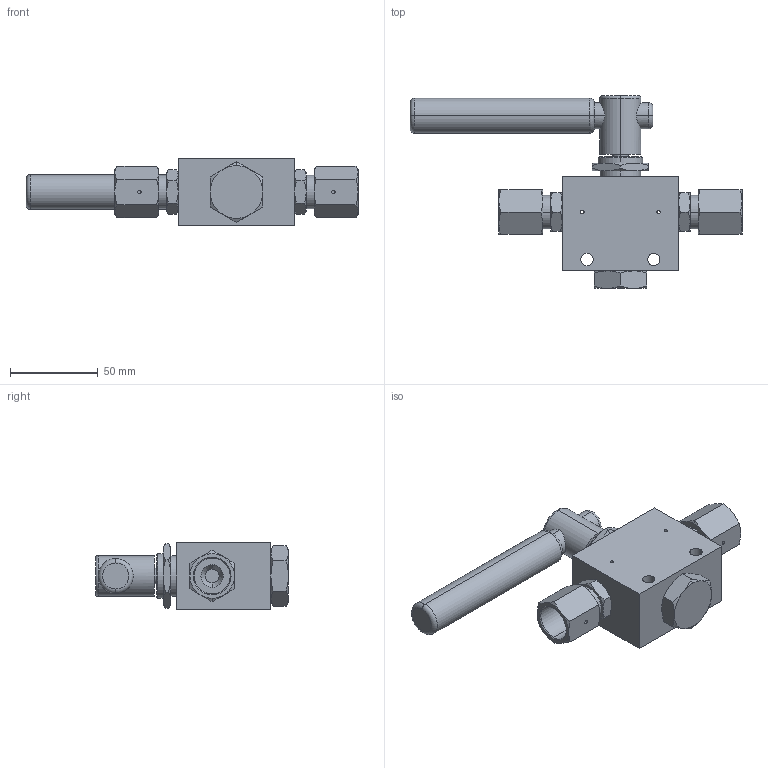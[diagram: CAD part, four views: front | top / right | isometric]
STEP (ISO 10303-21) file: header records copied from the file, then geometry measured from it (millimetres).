
FILE_DESCRIPTION (( 'STEP AP203' ), '1' );
FILE_NAME ('BV2003S09-2-90.STEP', '2022-03-31T10:07:42', ( '' ), ( '' ), 'SwSTEP 2.0', 'SolidWorks 2020', '' );
FILE_SCHEMA (( 'CONFIG_CONTROL_DESIGN' ));
Length unit declared in the file: millimetre
Products named in the file (1): BV2003S09-2-90
Bounding box: 189.33 x 110 x 38 mm (x, y, z)
Volume: 218463 mm3; surface area: 41863.1 mm2
Topology: 1 solids, 1 shells, 208 faces, 456 edges, 266 vertices
Faces by surface type: cone 98, plane 60, cylinder 42, torus 8
Entity records: 6441 total; most frequent: CARTESIAN_POINT 1979, ORIENTED_EDGE 904, DIRECTION 902, EDGE_CURVE 452, AXIS2_PLACEMENT_3D 393, VERTEX_POINT 266, EDGE_LOOP 240, ADVANCED_FACE 208
